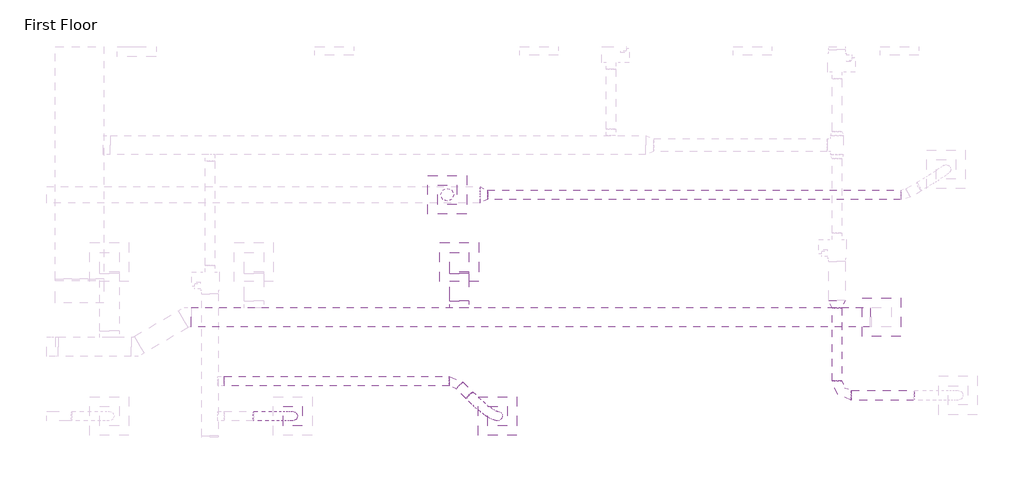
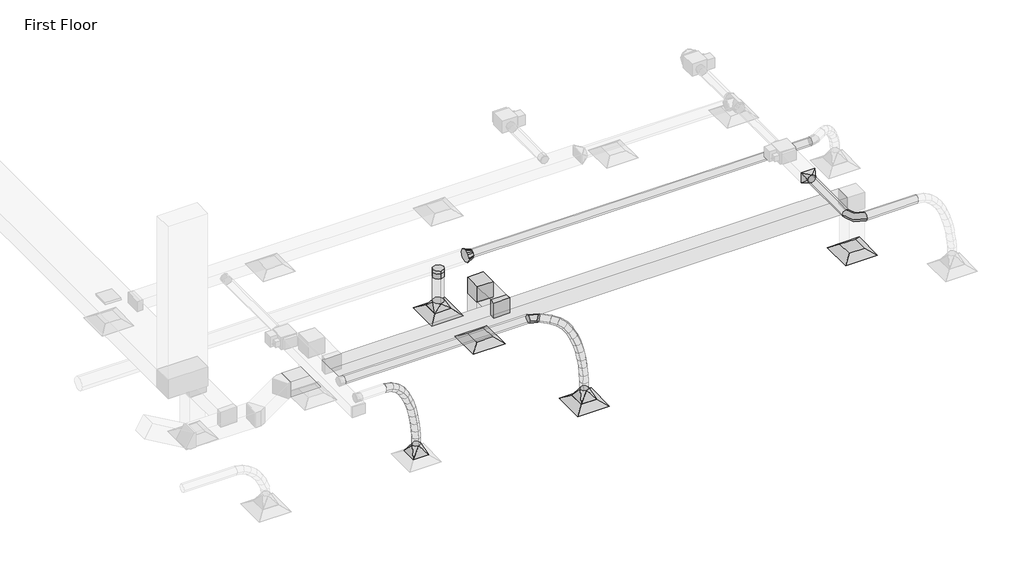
# One storey, part 47 of 61: 11 duct segments, 10 duct fittings, 4 air terminals.
"""IFC4 building model written with IfcOpenShell, lengths in millimetres."""

from ifc_helpers import new_model, si_unit, point, frame, frame_2d, origin, place, context, project, spatial, polyline, circle_curve, ellipse_curve, trimmed, segment, composite_curve, outline, extrude, transform, mapped, element, save
from ifc_brep_helpers import plane_surface, cylinder_surface, advanced_brep
from components import m_exhaust_grill_er_600_x_600_face_300_x_300_connection_ff221211, m_rectangular_elbow_mitered_standard_8eee5933, m_rectangular_takeoff_standard_b44bfa45, m_rectangular_to_round_transition_angle_45_degree_8f201c83, m_rectangular_to_round_transition_angle_45_degree_c3b12eae, m_rectangular_to_round_transition_angle_45_degree_60daae35, m_round_elbow_1_5_d_fa134dda, m_round_elbow_1_5_d_2e586196, m_round_takeoff_standard_2adb3d06, m_round_transition_angle_45_degree_7615eb52

model = new_model("IFC4")

# Units and contexts
model_context = context("Model", 3, world=origin())
ifc_project = project(units=[si_unit("LENGTHUNIT", "METRE", prefix="MILLI")], contexts=[model_context])

# Site, building, storey
site = spatial("IfcSite", under=ifc_project)
building = spatial("IfcBuilding", under=site)
storey = spatial("IfcBuildingStorey", under=building, Name="First Floor", Elevation=0.0)

# Air terminals
placement = place(None, origin())
m_exhaust_grill_er_600_x_600_face_300_x_300_connection_shape = m_exhaust_grill_er_600_x_600_face_300_x_300_connection_ff221211(model_context)
element("IfcAirTerminal", 1, ObjectType="M_Return Register : RR-600 x 600 Face 300 x 300 Connection", at=placement, inside=storey, context=model_context, shape_type="MappedRepresentation", body=[
    mapped(m_exhaust_grill_er_600_x_600_face_300_x_300_connection_shape, transform((-29108.1076362, 38358.5208691, 2680.0), x_axis=(1.0, 0.0, 0.0), y_axis=(0.0, 1.0, 0.0), z_axis=(0.0, 0.0, 1.0))),
])
element("IfcAirTerminal", 2, ObjectType="M_Return Register : RR-600 x 600 Face 300 x 300 Connection", at=placement, inside=storey, context=model_context, shape_type="MappedRepresentation", body=[
    mapped(m_exhaust_grill_er_600_x_600_face_300_x_300_connection_shape, transform((-22568.0356534, 37503.8775197, 2680.0), x_axis=(1.0, 0.0, 0.0), y_axis=(0.0, 1.0, 0.0), z_axis=(0.0, 0.0, 1.0))),
])
element("IfcAirTerminal", 3, ObjectType="M_Supply Diffuser : SD-600 x 600 Face 300 x 300 Connection", at=placement, inside=storey, context=model_context, shape_type="MappedRepresentation", body=[
    mapped(m_exhaust_grill_er_600_x_600_face_300_x_300_connection_shape, transform((-28515.163144, 35969.7483346, 2680.0), x_axis=(1.0, 0.0, 0.0), y_axis=(0.0, 1.0, 0.0), z_axis=(0.0, 0.0, 1.0))),
])
element("IfcAirTerminal", 4, ObjectType="M_Supply Diffuser : SD-600 x 600 Face 300 x 300 Connection", at=placement, inside=storey, context=model_context, shape_type="MappedRepresentation", body=[
    mapped(m_exhaust_grill_er_600_x_600_face_300_x_300_connection_shape, transform((-29294.9689953, 39401.9183838, 2680.0), x_axis=(1.0, 0.0, 0.0), y_axis=(0.0, 1.0, 0.0), z_axis=(0.0, 0.0, 1.0))),
])

# Duct fittings
m_rectangular_elbow_mitered_standard_shape = m_rectangular_elbow_mitered_standard_8eee5933(model_context)
element("IfcDuctFitting", 5, ObjectType="M_Rectangular Elbow - Mitered : Standard", at=placement, inside=storey, context=model_context, shape_type="MappedRepresentation", body=[
    mapped(m_rectangular_elbow_mitered_standard_shape, transform((-29108.1076362, 38358.5208691, 3750.0), x_axis=(0.0, 0.0, 1.0), y_axis=(0.0, -1.0, 0.0), z_axis=(1.0, 0.0, 0.0))),
])
m_rectangular_takeoff_standard_shape = m_rectangular_takeoff_standard_b44bfa45(model_context)
element("IfcDuctFitting", 6, ObjectType="M_Rectangular Takeoff : Standard", at=placement, inside=storey, context=model_context, shape_type="MappedRepresentation", body=[
    mapped(m_rectangular_takeoff_standard_shape, transform((-29108.1076362, 37653.8775197, 3750.0), x_axis=(0.0, 1.0, 0.0), y_axis=(1.0, 0.0, 0.0), z_axis=(0.0, 0.0, -1.0))),
])
m_rectangular_to_round_transition_angle_45_degree_shape = m_rectangular_to_round_transition_angle_45_degree_8f201c83(model_context)
element("IfcDuctFitting", 7, ObjectType="M_Rectangular to Round Transition - Angle : 45 Degree", at=placement, inside=storey, context=model_context, shape_type="MappedRepresentation", body=[
    mapped(m_rectangular_to_round_transition_angle_45_degree_shape, transform((-31688.8067764, 35969.7483346, 2781.6), x_axis=(0.0, 0.0, 1.0), y_axis=(1.0, 0.0, 0.0), z_axis=(0.0, 1.0, 0.0))),
])
element("IfcDuctFitting", 8, ObjectType="M_Rectangular to Round Transition - Angle : 45 Degree", at=placement, inside=storey, context=model_context, shape_type="MappedRepresentation", body=[
    mapped(m_rectangular_to_round_transition_angle_45_degree_shape, transform((-28515.163144, 35969.7483346, 2781.6), x_axis=(0.0, 0.0, 1.0), y_axis=(1.0, 0.0, 0.0), z_axis=(0.0, 1.0, 0.0))),
])
m_rectangular_to_round_transition_angle_45_degree_2_shape = m_rectangular_to_round_transition_angle_45_degree_c3b12eae(model_context)
element("IfcDuctFitting", 9, ObjectType="M_Rectangular to Round Transition - Angle : 45 Degree", at=placement, inside=storey, context=model_context, shape_type="MappedRepresentation", body=[
    mapped(m_rectangular_to_round_transition_angle_45_degree_2_shape, transform((-23256.5951693, 37766.1512227, 4279.0), x_axis=(0.0, -0.9999999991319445, -4.166666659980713e-05), y_axis=(1.0, 0.0, 0.0), z_axis=(0.0, -4.166666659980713e-05, 0.9999999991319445))),
])
m_rectangular_to_round_transition_angle_45_degree_3_shape = m_rectangular_to_round_transition_angle_45_degree_60daae35(model_context)
element("IfcDuctFitting", 10, ObjectType="M_Rectangular to Round Transition - Angle : 45 Degree", at=placement, inside=storey, context=model_context, shape_type="MappedRepresentation", body=[
    mapped(m_rectangular_to_round_transition_angle_45_degree_3_shape, transform((-29294.9689953, 39401.9183838, 2781.6), x_axis=(0.0, 0.0, 1.0), y_axis=(0.0, 1.0, 0.0), z_axis=(-1.0, 0.0, 0.0))),
])
m_round_elbow_1_5_d_shape = m_round_elbow_1_5_d_fa134dda(model_context)
element("IfcDuctFitting", 11, ObjectType="M_Round Elbow : 1.5 D", at=placement, inside=storey, context=model_context, shape_type="MappedRepresentation", body=[
    mapped(m_round_elbow_1_5_d_shape, transform((-29171.6317748, 36511.5685433, 4279.1), x_axis=(-0.7071067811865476, 0.7071067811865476, 0.0), y_axis=(-0.7071067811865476, -0.7071067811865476, 0.0), z_axis=(0.0, 0.0, 1.0))),
])
m_round_elbow_1_5_d_2_shape = m_round_elbow_1_5_d_2e586196(model_context)
element("IfcDuctFitting", 12, ObjectType="M_Round Elbow : 1.5 D", at=placement, inside=storey, context=model_context, shape_type="MappedRepresentation", body=[
    mapped(m_round_elbow_1_5_d_2_shape, transform((-23256.5951693, 36291.042011, 4279.0), x_axis=(0.0, -0.9999999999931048, 3.7135388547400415e-06), y_axis=(1.0, 0.0, 0.0), z_axis=(0.0, 3.7135388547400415e-06, 0.9999999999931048))),
])
m_round_takeoff_standard_shape = m_round_takeoff_standard_2adb3d06(model_context)
element("IfcDuctFitting", 13, ObjectType="M_Round Takeoff : Standard", at=placement, inside=storey, context=model_context, shape_type="MappedRepresentation", body=[
    mapped(m_round_takeoff_standard_shape, transform((-29294.9689953, 39401.9183838, 3494.1), x_axis=(0.0, 0.0, -1.0), y_axis=(0.0, -1.0, 0.0), z_axis=(-1.0, 0.0, 0.0))),
])
m_round_transition_angle_45_degree_shape = m_round_transition_angle_45_degree_7615eb52(model_context)
element("IfcDuctFitting", 14, ObjectType="M_Round Transition - Angle : 45 Degree", at=placement, inside=storey, context=model_context, shape_type="MappedRepresentation", body=[
    mapped(m_round_transition_angle_45_degree_shape, transform((-28786.3408383, 39401.9183838, 3619.1), x_axis=(1.0, 0.0, 0.0), y_axis=(0.0, 1.0, 0.0), z_axis=(0.0, 0.0, 1.0))),
])

# Duct segments
element("IfcDuctSegment", 15, ObjectType="Flex - Round", at=placement, inside=storey, context=model_context, shape_type="AdvancedBrep", body=[
    advanced_brep(
    [(-32292.2488656, 36044.7483346, 4279.1), (-32304.1707596, 35969.7483346, 4205.0536061), (-32292.2488656, 35894.7483346, 4279.1), (-32280.3269716, 35969.7483346, 4353.1463939), (-32169.3925272, 36044.7483346, 4259.319425), (-32193.4466156, 35969.7483346, 4187.226384), (-32169.3925272, 35894.7483346, 4259.319425), (-32145.3384388, 35969.7483346, 4331.412466), (-31688.8067764, 36044.7483346, 2962.6660172), (-31613.8261981, 35969.7483346, 2964.3727295), (-31688.8067764, 35894.7483346, 2962.6660172), (-31763.7873548, 35969.7483346, 2960.9593048), (-32063.3985917, 36044.7483346, 4203.5380822), (-32107.6658301, 35969.7483346, 4142.0825993), (-32063.3985917, 35894.7483346, 4203.5380822), (-32019.1313533, 35969.7483346, 4264.993565), (-31973.1794559, 36044.7483346, 4117.0965447), (-32030.8410618, 35969.7483346, 4068.4745888), (-31973.1794559, 35894.7483346, 4117.0965447), (-31915.51785, 35969.7483346, 4165.7185005), (-31897.6475165, 36044.7483346, 4005.3353856), (-31963.0456459, 35969.7483346, 3968.16081), (-31897.6475165, 35894.7483346, 4005.3353856), (-31832.2493872, 35969.7483346, 4042.5099612), (-31835.7151705, 36044.7483346, 3873.5951783), (-31905.4073756, 35969.7483346, 3845.5548025), (-31835.7151705, 35894.7483346, 3873.5951783), (-31766.0229654, 35969.7483346, 3901.635554), (-31786.2948146, 36044.7483346, 3727.2164958), (-31858.3889748, 35969.7483346, 3706.2904967), (-31786.2948146, 35894.7483346, 3727.2164958), (-31714.2006544, 35969.7483346, 3748.1424948), (-31748.2988458, 36044.7483346, 3571.5399113), (-31821.7633808, 35969.7483346, 3556.2285942), (-31748.2988458, 35894.7483346, 3571.5399113), (-31674.8343107, 35969.7483346, 3586.8512284), (-31720.6396607, 36044.7483346, 3411.905998), (-31794.8955993, 35969.7483346, 3401.1622357), (-31720.6396607, 35894.7483346, 3411.905998), (-31646.3837221, 35969.7483346, 3422.6497604), (-31702.2296562, 36044.7483346, 3253.6553291), (-31776.9364995, 35969.7483346, 3246.7875012), (-31702.2296562, 35894.7483346, 3253.6553291), (-31627.5228129, 35969.7483346, 3260.523157), (-31691.9812292, 36044.7483346, 3102.1284778), (-31766.9235935, 35969.7483346, 3098.7429165), (-31691.9812292, 35894.7483346, 3102.1284778), (-31617.0388649, 35969.7483346, 3105.514039)],
    [
        (0, 1, circle_curve(frame((-32292.2488656, 35969.7483346, 4279.1), z_axis=(-0.9872852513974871, 0.0, 0.15895858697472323), x_axis=(0.0, 1.0, 0.0)), 75.0)),
        (1, 2, circle_curve(frame((-32292.2488656, 35969.7483346, 4279.1), z_axis=(-0.9872852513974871, 0.0, 0.15895858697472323), x_axis=(0.0, 1.0, 0.0)), 75.0)),
        (2, 3, circle_curve(frame((-32292.2488656, 35969.7483346, 4279.1), z_axis=(-0.9872852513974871, 0.0, 0.15895858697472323), x_axis=(0.0, 1.0, 0.0)), 75.0)),
        (3, 0, circle_curve(frame((-32292.2488656, 35969.7483346, 4279.1), z_axis=(-0.9872852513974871, 0.0, 0.15895858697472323), x_axis=(0.0, 1.0, 0.0)), 75.0)),
        (0, 4),
        (4, 5, ellipse_curve(frame((-32169.3925272, 35969.7483346, 4259.319425), z_axis=(-0.9485921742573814, 0.0, 0.31650100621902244), x_axis=(-0.31650100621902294, 0.0, -0.9485921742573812)), 76.0000377, 75.0)),
        (5, 1),
        (5, 6, ellipse_curve(frame((-32169.3925272, 35969.7483346, 4259.319425), z_axis=(-0.9485921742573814, 0.0, 0.31650100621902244), x_axis=(-0.31650100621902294, 0.0, -0.9485921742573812)), 76.0000377, 75.0)),
        (6, 2),
        (6, 7, ellipse_curve(frame((-32169.3925272, 35969.7483346, 4259.319425), z_axis=(-0.9485921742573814, 0.0, 0.31650100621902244), x_axis=(-0.31650100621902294, 0.0, -0.9485921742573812)), 76.0000377, 75.0)),
        (7, 3),
        (7, 4, ellipse_curve(frame((-32169.3925272, 35969.7483346, 4259.319425), z_axis=(-0.9485921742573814, 0.0, 0.31650100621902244), x_axis=(-0.31650100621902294, 0.0, -0.9485921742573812)), 76.0000377, 75.0)),
        (8, 9, circle_curve(frame((-31688.8067764, 35969.7483346, 2962.6660172), z_axis=(0.022756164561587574, 0.0, -0.9997410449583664), x_axis=(0.0, 1.0, 0.0)), 75.0)),
        (9, 10, circle_curve(frame((-31688.8067764, 35969.7483346, 2962.6660172), z_axis=(0.022756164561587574, 0.0, -0.9997410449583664), x_axis=(0.0, 1.0, 0.0)), 75.0)),
        (10, 11, circle_curve(frame((-31688.8067764, 35969.7483346, 2962.6660172), z_axis=(0.022756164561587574, 0.0, -0.9997410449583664), x_axis=(0.0, 1.0, 0.0)), 75.0)),
        (11, 8, circle_curve(frame((-31688.8067764, 35969.7483346, 2962.6660172), z_axis=(0.022756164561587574, 0.0, -0.9997410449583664), x_axis=(0.0, 1.0, 0.0)), 75.0)),
        (4, 12),
        (12, 13, ellipse_curve(frame((-32063.3985917, 35969.7483346, 4203.5380822), z_axis=(-0.8114135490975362, 0.0, 0.5844724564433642), x_axis=(-0.5844724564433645, 0.0, -0.811413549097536)), 75.738793, 75.0)),
        (13, 5),
        (13, 14, ellipse_curve(frame((-32063.3985917, 35969.7483346, 4203.5380822), z_axis=(-0.8114135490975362, 0.0, 0.5844724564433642), x_axis=(-0.5844724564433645, 0.0, -0.811413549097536)), 75.738793, 75.0)),
        (14, 6),
        (14, 15, ellipse_curve(frame((-32063.3985917, 35969.7483346, 4203.5380822), z_axis=(-0.8114135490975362, 0.0, 0.5844724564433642), x_axis=(-0.5844724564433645, 0.0, -0.811413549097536)), 75.738793, 75.0)),
        (15, 7),
        (15, 12, ellipse_curve(frame((-32063.3985917, 35969.7483346, 4203.5380822), z_axis=(-0.8114135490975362, 0.0, 0.5844724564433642), x_axis=(-0.5844724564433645, 0.0, -0.811413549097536)), 75.738793, 75.0)),
        (12, 16),
        (16, 17, ellipse_curve(frame((-31973.1794559, 35969.7483346, 4117.0965447), z_axis=(-0.6446383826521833, 0.0, 0.764487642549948), x_axis=(-0.7644876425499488, 0.0, -0.6446383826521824)), 75.4251641, 75.0)),
        (17, 13),
        (17, 18, ellipse_curve(frame((-31973.1794559, 35969.7483346, 4117.0965447), z_axis=(-0.6446383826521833, 0.0, 0.764487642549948), x_axis=(-0.7644876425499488, 0.0, -0.6446383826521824)), 75.4251641, 75.0)),
        (18, 14),
        (18, 19, ellipse_curve(frame((-31973.1794559, 35969.7483346, 4117.0965447), z_axis=(-0.6446383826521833, 0.0, 0.764487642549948), x_axis=(-0.7644876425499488, 0.0, -0.6446383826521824)), 75.4251641, 75.0)),
        (19, 15),
        (19, 16, ellipse_curve(frame((-31973.1794559, 35969.7483346, 4117.0965447), z_axis=(-0.6446383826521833, 0.0, 0.764487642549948), x_axis=(-0.7644876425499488, 0.0, -0.6446383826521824)), 75.4251641, 75.0)),
        (16, 20),
        (20, 21, ellipse_curve(frame((-31897.6475165, 35969.7483346, 4005.3353856), z_axis=(-0.4941756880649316, 0.0, 0.8693620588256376), x_axis=(-0.8693620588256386, 0.0, -0.4941756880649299)), 75.2254239, 75.0)),
        (21, 17),
        (21, 22, ellipse_curve(frame((-31897.6475165, 35969.7483346, 4005.3353856), z_axis=(-0.4941756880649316, 0.0, 0.8693620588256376), x_axis=(-0.8693620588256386, 0.0, -0.4941756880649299)), 75.2254239, 75.0)),
        (22, 18),
        (22, 23, ellipse_curve(frame((-31897.6475165, 35969.7483346, 4005.3353856), z_axis=(-0.4941756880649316, 0.0, 0.8693620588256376), x_axis=(-0.8693620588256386, 0.0, -0.4941756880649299)), 75.2254239, 75.0)),
        (23, 19),
        (23, 20, ellipse_curve(frame((-31897.6475165, 35969.7483346, 4005.3353856), z_axis=(-0.4941756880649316, 0.0, 0.8693620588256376), x_axis=(-0.8693620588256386, 0.0, -0.4941756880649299)), 75.2254239, 75.0)),
        (20, 24),
        (24, 25, ellipse_curve(frame((-31835.7151705, 35969.7483346, 3873.5951783), z_axis=(-0.3732661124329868, 0.0, 0.9277243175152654), x_axis=(-0.927724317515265, 0.0, -0.37326611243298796)), 75.1216754, 75.0)),
        (25, 21),
        (25, 26, ellipse_curve(frame((-31835.7151705, 35969.7483346, 3873.5951783), z_axis=(-0.3732661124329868, 0.0, 0.9277243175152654), x_axis=(-0.927724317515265, 0.0, -0.37326611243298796)), 75.1216754, 75.0)),
        (26, 22),
        (26, 27, ellipse_curve(frame((-31835.7151705, 35969.7483346, 3873.5951783), z_axis=(-0.3732661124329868, 0.0, 0.9277243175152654), x_axis=(-0.927724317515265, 0.0, -0.37326611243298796)), 75.1216754, 75.0)),
        (27, 23),
        (27, 24, ellipse_curve(frame((-31835.7151705, 35969.7483346, 3873.5951783), z_axis=(-0.3732661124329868, 0.0, 0.9277243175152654), x_axis=(-0.927724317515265, 0.0, -0.37326611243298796)), 75.1216754, 75.0)),
        (24, 28),
        (28, 29, ellipse_curve(frame((-31786.2948146, 35969.7483346, 3727.2164958), z_axis=(-0.27875412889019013, 0.0, 0.9603625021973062), x_axis=(-0.960362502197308, 0.0, -0.2787541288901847)), 75.0697367, 75.0)),
        (29, 25),
        (29, 30, ellipse_curve(frame((-31786.2948146, 35969.7483346, 3727.2164958), z_axis=(-0.27875412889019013, 0.0, 0.9603625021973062), x_axis=(-0.960362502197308, 0.0, -0.2787541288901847)), 75.0697367, 75.0)),
        (30, 26),
        (30, 31, ellipse_curve(frame((-31786.2948146, 35969.7483346, 3727.2164958), z_axis=(-0.27875412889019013, 0.0, 0.9603625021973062), x_axis=(-0.960362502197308, 0.0, -0.2787541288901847)), 75.0697367, 75.0)),
        (31, 27),
        (31, 28, ellipse_curve(frame((-31786.2948146, 35969.7483346, 3727.2164958), z_axis=(-0.27875412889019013, 0.0, 0.9603625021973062), x_axis=(-0.960362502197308, 0.0, -0.2787541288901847)), 75.0697367, 75.0)),
        (28, 32),
        (32, 33, ellipse_curve(frame((-31748.2988458, 35969.7483346, 3571.5399113), z_axis=(-0.20403350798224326, 0.0, 0.9789639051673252), x_axis=(-0.9789639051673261, 0.0, -0.20403350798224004)), 75.0431499, 75.0)),
        (33, 29),
        (33, 34, ellipse_curve(frame((-31748.2988458, 35969.7483346, 3571.5399113), z_axis=(-0.20403350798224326, 0.0, 0.9789639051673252), x_axis=(-0.9789639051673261, 0.0, -0.20403350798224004)), 75.0431499, 75.0)),
        (34, 30),
        (34, 35, ellipse_curve(frame((-31748.2988458, 35969.7483346, 3571.5399113), z_axis=(-0.20403350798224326, 0.0, 0.9789639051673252), x_axis=(-0.9789639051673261, 0.0, -0.20403350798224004)), 75.0431499, 75.0)),
        (35, 31),
        (35, 32, ellipse_curve(frame((-31748.2988458, 35969.7483346, 3571.5399113), z_axis=(-0.20403350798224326, 0.0, 0.9789639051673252), x_axis=(-0.9789639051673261, 0.0, -0.20403350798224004)), 75.0431499, 75.0)),
        (32, 36),
        (36, 37, ellipse_curve(frame((-31720.6396607, 35969.7483346, 3411.905998), z_axis=(-0.14319451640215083, 0.0, 0.9896945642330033), x_axis=(-0.9896945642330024, 0.0, -0.1431945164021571)), 75.0291467, 75.0)),
        (37, 33),
        (37, 38, ellipse_curve(frame((-31720.6396607, 35969.7483346, 3411.905998), z_axis=(-0.14319451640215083, 0.0, 0.9896945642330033), x_axis=(-0.9896945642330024, 0.0, -0.1431945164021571)), 75.0291467, 75.0)),
        (38, 34),
        (38, 39, ellipse_curve(frame((-31720.6396607, 35969.7483346, 3411.905998), z_axis=(-0.14319451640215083, 0.0, 0.9896945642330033), x_axis=(-0.9896945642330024, 0.0, -0.1431945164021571)), 75.0291467, 75.0)),
        (39, 35),
        (39, 36, ellipse_curve(frame((-31720.6396607, 35969.7483346, 3411.905998), z_axis=(-0.14319451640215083, 0.0, 0.9896945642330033), x_axis=(-0.9896945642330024, 0.0, -0.1431945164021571)), 75.0291467, 75.0)),
        (36, 40),
        (40, 41, ellipse_curve(frame((-31702.2296562, 35969.7483346, 3253.6553291), z_axis=(-0.09154435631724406, 0.0, 0.9958009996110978), x_axis=(-0.9958009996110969, 0.0, -0.09154435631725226)), 75.0218601, 75.0)),
        (41, 37),
        (41, 42, ellipse_curve(frame((-31702.2296562, 35969.7483346, 3253.6553291), z_axis=(-0.09154435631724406, 0.0, 0.9958009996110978), x_axis=(-0.9958009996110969, 0.0, -0.09154435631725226)), 75.0218601, 75.0)),
        (42, 38),
        (42, 43, ellipse_curve(frame((-31702.2296562, 35969.7483346, 3253.6553291), z_axis=(-0.09154435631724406, 0.0, 0.9958009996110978), x_axis=(-0.9958009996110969, 0.0, -0.09154435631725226)), 75.0218601, 75.0)),
        (43, 39),
        (43, 40, ellipse_curve(frame((-31702.2296562, 35969.7483346, 3253.6553291), z_axis=(-0.09154435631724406, 0.0, 0.9958009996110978), x_axis=(-0.9958009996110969, 0.0, -0.09154435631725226)), 75.0218601, 75.0)),
        (40, 44),
        (44, 45, ellipse_curve(frame((-31691.9812292, 35969.7483346, 3102.1284778), z_axis=(-0.0451295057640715, 0.0, 0.9989811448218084), x_axis=(-0.9989811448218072, 0.0, -0.04512950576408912)), 75.0187976, 75.0)),
        (45, 41),
        (45, 46, ellipse_curve(frame((-31691.9812292, 35969.7483346, 3102.1284778), z_axis=(-0.0451295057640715, 0.0, 0.9989811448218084), x_axis=(-0.9989811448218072, 0.0, -0.04512950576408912)), 75.0187976, 75.0)),
        (46, 42),
        (46, 47, ellipse_curve(frame((-31691.9812292, 35969.7483346, 3102.1284778), z_axis=(-0.0451295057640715, 0.0, 0.9989811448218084), x_axis=(-0.9989811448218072, 0.0, -0.04512950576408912)), 75.0187976, 75.0)),
        (47, 43),
        (47, 44, ellipse_curve(frame((-31691.9812292, 35969.7483346, 3102.1284778), z_axis=(-0.0451295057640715, 0.0, 0.9989811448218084), x_axis=(-0.9989811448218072, 0.0, -0.04512950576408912)), 75.0187976, 75.0)),
        (44, 8),
        (11, 45),
        (10, 46),
        (9, 47),
    ],
    [
        plane_surface(frame((-32292.2488656, 36044.7483346, 4279.1), z_axis=(-0.9872852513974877, 0.0, 0.15895858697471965), x_axis=(0.15895858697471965, 0.0, 0.9872852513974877))),
        cylinder_surface(frame((-32292.2488656, 35969.7483346, 4279.1), z_axis=(-0.9872852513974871, 0.0, 0.15895858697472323), x_axis=(0.0, 1.0, 0.0)), 75.0),
        plane_surface(frame((-31688.8067764, 36044.7483346, 2962.6660172), z_axis=(0.022756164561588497, 0.0, -0.9997410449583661), x_axis=(0.9997410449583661, 0.0, 0.022756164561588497))),
        cylinder_surface(frame((-32169.3925272, 35969.7483346, 4259.319425), z_axis=(-0.8849352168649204, 0.0, 0.4657141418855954), x_axis=(0.0, 1.0, 0.0)), 75.0),
        cylinder_surface(frame((-32063.3985917, 35969.7483346, 4203.5380822), z_axis=(-0.7220620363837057, 0.0, 0.6918283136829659), x_axis=(0.0, 1.0, 0.0)), 75.0),
        cylinder_surface(frame((-31973.1794559, 35969.7483346, 4117.0965447), z_axis=(-0.559947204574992, 0.0, 0.8285282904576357), x_axis=(0.0, 1.0, 0.0)), 75.0),
        cylinder_surface(frame((-31897.6475165, 35969.7483346, 4005.3353856), z_axis=(-0.4254424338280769, 0.0, 0.9049854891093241), x_axis=(0.0, 1.0, 0.0)), 75.0),
        cylinder_surface(frame((-31835.7151705, 35969.7483346, 3873.5951783), z_axis=(-0.3198806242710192, 0.0, 0.9474578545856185), x_axis=(0.0, 1.0, 0.0)), 75.0),
        cylinder_surface(frame((-31786.2948146, 35969.7483346, 3727.2164958), z_axis=(-0.23710973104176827, 0.0, 0.9714828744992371), x_axis=(0.0, 1.0, 0.0)), 75.0),
        cylinder_surface(frame((-31748.2988458, 35969.7483346, 3571.5399113), z_axis=(-0.17072264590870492, 0.0, 0.9853191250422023), x_axis=(0.0, 1.0, 0.0)), 75.0),
        cylinder_surface(frame((-31720.6396607, 35969.7483346, 3411.905998), z_axis=(-0.11555513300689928, 0.0, 0.993301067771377), x_axis=(0.0, 1.0, 0.0)), 75.0),
        cylinder_surface(frame((-31702.2296562, 35969.7483346, 3253.6553291), z_axis=(-0.06748023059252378, 0.0, 0.9977206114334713), x_axis=(0.0, 1.0, 0.0)), 75.0),
        cylinder_surface(frame((-31691.9812292, 35969.7483346, 3102.1284778), z_axis=(-0.02275616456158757, 0.0, 0.9997410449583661), x_axis=(0.0, 1.0, 0.0)), 75.0),
    ],
    [
        (0, [[1, 2, 3, 4]]),
        (1, [[-1, 5, 6, 7]]),
        (1, [[-2, -7, 8, 9]]),
        (1, [[-3, -9, 10, 11]]),
        (1, [[-4, -11, 12, -5]]),
        (2, [[13, 14, 15, 16]]),
        (3, [[-6, 17, 18, 19]]),
        (3, [[-8, -19, 20, 21]]),
        (3, [[-10, -21, 22, 23]]),
        (3, [[-12, -23, 24, -17]]),
        (4, [[-18, 25, 26, 27]]),
        (4, [[-20, -27, 28, 29]]),
        (4, [[-22, -29, 30, 31]]),
        (4, [[-24, -31, 32, -25]]),
        (5, [[-26, 33, 34, 35]]),
        (5, [[-28, -35, 36, 37]]),
        (5, [[-30, -37, 38, 39]]),
        (5, [[-32, -39, 40, -33]]),
        (6, [[-34, 41, 42, 43]]),
        (6, [[-36, -43, 44, 45]]),
        (6, [[-38, -45, 46, 47]]),
        (6, [[-40, -47, 48, -41]]),
        (7, [[-42, 49, 50, 51]]),
        (7, [[-44, -51, 52, 53]]),
        (7, [[-46, -53, 54, 55]]),
        (7, [[-48, -55, 56, -49]]),
        (8, [[-50, 57, 58, 59]]),
        (8, [[-52, -59, 60, 61]]),
        (8, [[-54, -61, 62, 63]]),
        (8, [[-56, -63, 64, -57]]),
        (9, [[-58, 65, 66, 67]]),
        (9, [[-60, -67, 68, 69]]),
        (9, [[-62, -69, 70, 71]]),
        (9, [[-64, -71, 72, -65]]),
        (10, [[-66, 73, 74, 75]]),
        (10, [[-68, -75, 76, 77]]),
        (10, [[-70, -77, 78, 79]]),
        (10, [[-72, -79, 80, -73]]),
        (11, [[-74, 81, 82, 83]]),
        (11, [[-76, -83, 84, 85]]),
        (11, [[-78, -85, 86, 87]]),
        (11, [[-80, -87, 88, -81]]),
        (12, [[-82, 89, -16, 90]]),
        (12, [[-84, -90, -15, 91]]),
        (12, [[-86, -91, -14, 92]]),
        (12, [[-88, -92, -13, -89]]),
    ],
),
])
element("IfcDuctSegment", 16, ObjectType="Flex - Round", at=placement, inside=storey, context=model_context, shape_type="AdvancedBrep", body=[
    advanced_brep(
    [(-28898.9172726, 36344.9068029, 4279.1), (-28959.9867045, 36299.6469913, 4205.1265321), (-29003.2932124, 36237.1772192, 4279.1), (-28942.2237805, 36282.4370308, 4353.0734679), (-28813.9922862, 36262.6255486, 4259.3322827), (-28883.4482216, 36225.4911669, 4187.3109144), (-28916.6646282, 36153.2454005, 4258.9357416), (-28847.2086929, 36190.3797821, 4330.9571099), (-28466.4959427, 36026.8062222, 2963.6152167), (-28458.114832, 35921.0718967, 2963.7122018), (-28563.8303453, 35912.690447, 2961.7168177), (-28572.2114559, 36018.4247724, 2961.6198326), (-28740.6675703, 36196.4851353, 4204.1243143), (-28824.4525426, 36172.2758419, 4142.8916277), (-28840.5363164, 36084.5760856, 4201.6168774), (-28756.7513441, 36108.7853789, 4262.8495641), (-28677.233403, 36143.8458751, 4118.1659162), (-28770.5889908, 36127.5785181, 4069.9021833), (-28775.4039092, 36030.5275835, 4113.3572278), (-28682.0483214, 36046.7949405, 4161.6209608), (-28623.1993399, 36103.2327389, 4006.5165657), (-28722.0304381, 36091.0808904, 3969.5667549), (-28720.5437615, 35989.2935446, 4000.0009574), (-28621.7126632, 36001.4453931, 4036.9507682), (-28578.1487226, 36073.2003178, 3874.5619656), (-28679.998044, 36063.0605295, 3846.4526204), (-28675.1584421, 35959.0379987, 3867.0660051), (-28573.3091207, 35969.1777871, 3895.1753502), (-28541.5959043, 36052.2199631, 3727.7999245), (-28645.1414702, 36043.0537744, 3706.5011157), (-28638.5195082, 35938.0082159, 3719.958204), (-28534.9739424, 35947.1744046, 3741.2570128), (-28512.9960433, 36038.7041249, 3571.7228135), (-28617.5281753, 36030.0041717, 3555.807961), (-28609.9577124, 35924.5103668, 3564.0888249), (-28505.4255803, 35933.21032, 3580.0036774), (-28491.7733613, 36031.036805, 3411.7873451), (-28596.8961678, 36022.5502504, 3400.3238529), (-28588.834743, 35916.879071, 3404.904797), (-28483.7119364, 35925.3656256, 3416.3682892), (-28477.3386327, 36027.5893303, 3253.4031783), (-28582.8175024, 36019.1878149, 3245.8465659), (-28574.5257361, 35913.4616226, 3247.9001032), (-28469.0468665, 35921.863138, 3255.4567156), (-28469.0999335, 36026.7266651, 3101.9089038), (-28574.7806027, 36018.3462799, 3098.0630078), (-28566.4085264, 35912.6116785, 3098.6397945), (-28460.7278572, 35920.9920637, 3102.4856905)],
    [
        (0, 1, circle_curve(frame((-28951.1052425, 36291.042011, 4279.1), z_axis=(-0.7083671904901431, 0.6863155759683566, 0.16488436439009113), x_axis=(0.6958395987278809, 0.71819722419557, 0.0)), 75.0)),
        (1, 2, circle_curve(frame((-28951.1052425, 36291.042011, 4279.1), z_axis=(-0.7083671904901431, 0.6863155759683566, 0.16488436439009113), x_axis=(0.6958395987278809, 0.71819722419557, 0.0)), 75.0)),
        (2, 3, circle_curve(frame((-28951.1052425, 36291.042011, 4279.1), z_axis=(-0.7083671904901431, 0.6863155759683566, 0.16488436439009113), x_axis=(0.6958395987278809, 0.71819722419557, 0.0)), 75.0)),
        (3, 0, circle_curve(frame((-28951.1052425, 36291.042011, 4279.1), z_axis=(-0.7083671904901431, 0.6863155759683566, 0.16488436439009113), x_axis=(0.6958395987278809, 0.71819722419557, 0.0)), 75.0)),
        (0, 4),
        (4, 5, ellipse_curve(frame((-28865.3284572, 36207.9354745, 4259.1340122), z_axis=(-0.6885126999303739, 0.6450878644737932, 0.3313788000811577), x_axis=(-0.17508220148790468, 0.2955650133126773, -0.9391419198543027)), 76.1349561, 75.0)),
        (5, 1),
        (5, 6, ellipse_curve(frame((-28865.3284572, 36207.9354745, 4259.1340122), z_axis=(-0.6885126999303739, 0.6450878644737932, 0.3313788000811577), x_axis=(-0.17508220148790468, 0.2955650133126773, -0.9391419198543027)), 76.1349561, 75.0)),
        (6, 2),
        (6, 7, ellipse_curve(frame((-28865.3284572, 36207.9354745, 4259.1340122), z_axis=(-0.6885126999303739, 0.6450878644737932, 0.3313788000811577), x_axis=(-0.17508220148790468, 0.2955650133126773, -0.9391419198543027)), 76.1349561, 75.0)),
        (7, 3),
        (7, 4, ellipse_curve(frame((-28865.3284572, 36207.9354745, 4259.1340122), z_axis=(-0.6885126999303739, 0.6450878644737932, 0.3313788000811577), x_axis=(-0.17508220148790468, 0.2955650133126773, -0.9391419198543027)), 76.1349561, 75.0)),
        (8, 9, circle_curve(frame((-28515.163144, 35969.7483346, 2962.6660172), z_axis=(0.018826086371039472, 0.0005751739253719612, -0.9998226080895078), x_axis=(0.6488960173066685, 0.760771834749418, 0.012655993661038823)), 75.0)),
        (9, 10, circle_curve(frame((-28515.163144, 35969.7483346, 2962.6660172), z_axis=(0.018826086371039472, 0.0005751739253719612, -0.9998226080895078), x_axis=(0.6488960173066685, 0.760771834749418, 0.012655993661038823)), 75.0)),
        (10, 11, circle_curve(frame((-28515.163144, 35969.7483346, 2962.6660172), z_axis=(0.018826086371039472, 0.0005751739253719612, -0.9998226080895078), x_axis=(0.6488960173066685, 0.760771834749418, 0.012655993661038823)), 75.0)),
        (11, 8, circle_curve(frame((-28515.163144, 35969.7483346, 2962.6660172), z_axis=(0.018826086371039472, 0.0005751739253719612, -0.9998226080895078), x_axis=(0.6488960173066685, 0.760771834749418, 0.012655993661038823)), 75.0)),
        (4, 12),
        (12, 13, ellipse_curve(frame((-28790.6019433, 36140.5306104, 4202.8705959), z_axis=(-0.5970114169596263, 0.5190738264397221, 0.6116696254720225), x_axis=(-0.3886045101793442, 0.47991377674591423, -0.7865553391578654)), 75.8420839, 75.0)),
        (13, 5),
        (13, 14, ellipse_curve(frame((-28790.6019433, 36140.5306104, 4202.8705959), z_axis=(-0.5970114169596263, 0.5190738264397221, 0.6116696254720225), x_axis=(-0.3886045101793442, 0.47991377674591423, -0.7865553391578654)), 75.8420839, 75.0)),
        (14, 6),
        (14, 15, ellipse_curve(frame((-28790.6019433, 36140.5306104, 4202.8705959), z_axis=(-0.5970114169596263, 0.5190738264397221, 0.6116696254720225), x_axis=(-0.3886045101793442, 0.47991377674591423, -0.7865553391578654)), 75.8420839, 75.0)),
        (15, 7),
        (15, 12, ellipse_curve(frame((-28790.6019433, 36140.5306104, 4202.8705959), z_axis=(-0.5970114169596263, 0.5190738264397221, 0.6116696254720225), x_axis=(-0.3886045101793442, 0.47991377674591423, -0.7865553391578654)), 75.8420839, 75.0)),
        (12, 16),
        (16, 17, ellipse_curve(frame((-28726.3186561, 36087.1867293, 4115.761572), z_axis=(-0.4762469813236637, 0.3789132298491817, 0.7934819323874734), x_axis=(-0.5356193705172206, 0.5906459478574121, -0.6035306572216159)), 75.464193, 75.0)),
        (17, 13),
        (17, 18, ellipse_curve(frame((-28726.3186561, 36087.1867293, 4115.761572), z_axis=(-0.4762469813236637, 0.3789132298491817, 0.7934819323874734), x_axis=(-0.5356193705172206, 0.5906459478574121, -0.6035306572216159)), 75.464193, 75.0)),
        (18, 14),
        (18, 19, ellipse_curve(frame((-28726.3186561, 36087.1867293, 4115.761572), z_axis=(-0.4762469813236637, 0.3789132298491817, 0.7934819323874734), x_axis=(-0.5356193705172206, 0.5906459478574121, -0.6035306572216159)), 75.464193, 75.0)),
        (19, 15),
        (19, 16, ellipse_curve(frame((-28726.3186561, 36087.1867293, 4115.761572), z_axis=(-0.4762469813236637, 0.3789132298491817, 0.7934819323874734), x_axis=(-0.5356193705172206, 0.5906459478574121, -0.6035306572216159)), 75.464193, 75.0)),
        (16, 20),
        (20, 21, ellipse_curve(frame((-28671.8715507, 36046.2631418, 4003.2587616), z_axis=(-0.36605560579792, 0.2616723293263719, 0.8930458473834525), x_axis=(-0.6255686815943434, 0.6412822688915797, -0.4443206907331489)), 75.2318303, 75.0)),
        (21, 17),
        (21, 22, ellipse_curve(frame((-28671.8715507, 36046.2631418, 4003.2587616), z_axis=(-0.36605560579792, 0.2616723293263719, 0.8930458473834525), x_axis=(-0.6255686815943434, 0.6412822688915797, -0.4443206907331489)), 75.2318303, 75.0)),
        (22, 18),
        (22, 23, ellipse_curve(frame((-28671.8715507, 36046.2631418, 4003.2587616), z_axis=(-0.36605560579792, 0.2616723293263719, 0.8930458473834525), x_axis=(-0.6255686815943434, 0.6412822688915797, -0.4443206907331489)), 75.2318303, 75.0)),
        (23, 19),
        (23, 20, ellipse_curve(frame((-28671.8715507, 36046.2631418, 4003.2587616), z_axis=(-0.36605560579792, 0.2616723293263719, 0.8930458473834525), x_axis=(-0.6255686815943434, 0.6412822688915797, -0.4443206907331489)), 75.2318303, 75.0)),
        (20, 24),
        (24, 25, ellipse_curve(frame((-28626.6535823, 36016.1191583, 3870.8139853), z_axis=(-0.278055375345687, 0.17425350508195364, 0.9446273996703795), x_axis=(-0.6840641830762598, 0.6544599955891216, -0.3220843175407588)), 75.1174252, 75.0)),
        (25, 21),
        (25, 26, ellipse_curve(frame((-28626.6535823, 36016.1191583, 3870.8139853), z_axis=(-0.278055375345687, 0.17425350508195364, 0.9446273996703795), x_axis=(-0.6840641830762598, 0.6544599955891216, -0.3220843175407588)), 75.1174252, 75.0)),
        (26, 22),
        (26, 27, ellipse_curve(frame((-28626.6535823, 36016.1191583, 3870.8139853), z_axis=(-0.278055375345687, 0.17425350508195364, 0.9446273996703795), x_axis=(-0.6840641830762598, 0.6544599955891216, -0.3220843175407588)), 75.1174252, 75.0)),
        (27, 23),
        (27, 24, ellipse_curve(frame((-28626.6535823, 36016.1191583, 3870.8139853), z_axis=(-0.278055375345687, 0.17425350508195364, 0.9446273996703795), x_axis=(-0.6840641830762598, 0.6544599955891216, -0.3220843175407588)), 75.1174252, 75.0)),
        (24, 28),
        (28, 29, ellipse_curve(frame((-28590.0577063, 35995.1140895, 3723.8790642), z_axis=(-0.20966396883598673, 0.11122966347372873, 0.9714262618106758), x_axis=(-0.7309093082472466, 0.6420935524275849, -0.23127354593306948)), 75.0628252, 75.0)),
        (29, 25),
        (29, 30, ellipse_curve(frame((-28590.0577063, 35995.1140895, 3723.8790642), z_axis=(-0.20966396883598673, 0.11122966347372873, 0.9714262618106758), x_axis=(-0.7309093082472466, 0.6420935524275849, -0.23127354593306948)), 75.0628252, 75.0)),
        (30, 26),
        (30, 31, ellipse_curve(frame((-28590.0577063, 35995.1140895, 3723.8790642), z_axis=(-0.20966396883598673, 0.11122966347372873, 0.9714262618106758), x_axis=(-0.7309093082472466, 0.6420935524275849, -0.23127354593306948)), 75.0628252, 75.0)),
        (31, 27),
        (31, 28, ellipse_curve(frame((-28590.0577063, 35995.1140895, 3723.8790642), z_axis=(-0.20966396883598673, 0.11122966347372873, 0.9714262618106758), x_axis=(-0.7309093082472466, 0.6420935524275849, -0.23127354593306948)), 75.0628252, 75.0)),
        (28, 32),
        (32, 33, ellipse_curve(frame((-28561.4768778, 35981.6072458, 3567.9058192), z_axis=(-0.1555666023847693, 0.06620242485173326, 0.9856045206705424), x_axis=(-0.7793738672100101, 0.6048125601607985, -0.16364028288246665)), 75.0358776, 75.0)),
        (33, 29),
        (33, 34, ellipse_curve(frame((-28561.4768778, 35981.6072458, 3567.9058192), z_axis=(-0.1555666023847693, 0.06620242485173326, 0.9856045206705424), x_axis=(-0.7793738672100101, 0.6048125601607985, -0.16364028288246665)), 75.0358776, 75.0)),
        (34, 30),
        (34, 35, ellipse_curve(frame((-28561.4768778, 35981.6072458, 3567.9058192), z_axis=(-0.1555666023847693, 0.06620242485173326, 0.9856045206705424), x_axis=(-0.7793738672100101, 0.6048125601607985, -0.16364028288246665)), 75.0358776, 75.0)),
        (35, 31),
        (35, 32, ellipse_curve(frame((-28561.4768778, 35981.6072458, 3567.9058192), z_axis=(-0.1555666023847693, 0.06620242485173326, 0.9856045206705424), x_axis=(-0.7793738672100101, 0.6048125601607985, -0.16364028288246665)), 75.0358776, 75.0)),
        (32, 36),
        (36, 37, ellipse_curve(frame((-28540.3040521, 35973.957938, 3408.3460711), z_axis=(-0.11109957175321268, 0.03458092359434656, 0.9932074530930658), x_axis=(-0.8389924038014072, 0.5324106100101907, -0.11238633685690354)), 75.0220218, 75.0)),
        (37, 33),
        (37, 38, ellipse_curve(frame((-28540.3040521, 35973.957938, 3408.3460711), z_axis=(-0.11109957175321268, 0.03458092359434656, 0.9932074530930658), x_axis=(-0.8389924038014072, 0.5324106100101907, -0.11238633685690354)), 75.0220218, 75.0)),
        (38, 34),
        (38, 39, ellipse_curve(frame((-28540.3040521, 35973.957938, 3408.3460711), z_axis=(-0.11109957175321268, 0.03458092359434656, 0.9932074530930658), x_axis=(-0.8389924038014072, 0.5324106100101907, -0.11238633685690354)), 75.0220218, 75.0)),
        (39, 35),
        (39, 36, ellipse_curve(frame((-28540.3040521, 35973.957938, 3408.3460711), z_axis=(-0.11109957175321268, 0.03458092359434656, 0.9932074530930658), x_axis=(-0.8389924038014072, 0.5324106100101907, -0.11238633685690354)), 75.0220218, 75.0)),
        (36, 40),
        (40, 41, ellipse_curve(frame((-28525.9321844, 35970.5254765, 3250.6516407), z_axis=(-0.07253531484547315, 0.01368146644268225, 0.9972720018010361), x_axis=(-0.9133784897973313, 0.4007065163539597, -0.07193067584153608)), 75.0149249, 75.0)),
        (41, 37),
        (41, 42, ellipse_curve(frame((-28525.9321844, 35970.5254765, 3250.6516407), z_axis=(-0.07253531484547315, 0.01368146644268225, 0.9972720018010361), x_axis=(-0.9133784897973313, 0.4007065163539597, -0.07193067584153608)), 75.0149249, 75.0)),
        (42, 38),
        (42, 43, ellipse_curve(frame((-28525.9321844, 35970.5254765, 3250.6516407), z_axis=(-0.07253531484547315, 0.01368146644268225, 0.9972720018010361), x_axis=(-0.9133784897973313, 0.4007065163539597, -0.07193067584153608)), 75.0149249, 75.0)),
        (43, 39),
        (43, 40, ellipse_curve(frame((-28525.9321844, 35970.5254765, 3250.6516407), z_axis=(-0.07253531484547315, 0.01368146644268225, 0.9972720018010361), x_axis=(-0.9133784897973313, 0.4007065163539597, -0.07193067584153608)), 75.0149249, 75.0)),
        (40, 44),
        (44, 45, ellipse_curve(frame((-28517.75423, 35969.6691718, 3100.2743492), z_axis=(-0.036569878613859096, 0.002555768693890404, 0.9993278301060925), x_axis=(-0.9841258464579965, 0.17368692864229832, -0.036457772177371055)), 75.0121853, 75.0)),
        (45, 41),
        (45, 46, ellipse_curve(frame((-28517.75423, 35969.6691718, 3100.2743492), z_axis=(-0.036569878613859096, 0.002555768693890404, 0.9993278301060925), x_axis=(-0.9841258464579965, 0.17368692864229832, -0.036457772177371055)), 75.0121853, 75.0)),
        (46, 42),
        (46, 47, ellipse_curve(frame((-28517.75423, 35969.6691718, 3100.2743492), z_axis=(-0.036569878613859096, 0.002555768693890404, 0.9993278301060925), x_axis=(-0.9841258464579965, 0.17368692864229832, -0.036457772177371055)), 75.0121853, 75.0)),
        (47, 43),
        (47, 44, ellipse_curve(frame((-28517.75423, 35969.6691718, 3100.2743492), z_axis=(-0.036569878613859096, 0.002555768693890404, 0.9993278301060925), x_axis=(-0.9841258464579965, 0.17368692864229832, -0.036457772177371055)), 75.0121853, 75.0)),
        (44, 8),
        (11, 45),
        (10, 46),
        (9, 47),
    ],
    [
        plane_surface(frame((-28951.1052425, 36308.5619237, 4206.1750203), z_axis=(-0.7083671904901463, 0.6863155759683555, 0.1648843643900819), x_axis=(0.7058441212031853, 0.6887688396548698, 0.16547375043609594))),
        cylinder_surface(frame((-28951.1052425, 36291.042011, 4279.1), z_axis=(-0.7083671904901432, 0.6863155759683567, 0.16488436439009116), x_axis=(0.6958395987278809, 0.71819722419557, 0.0)), 75.0),
        plane_surface(frame((-28515.163144, 36044.7483222, 2962.7091629), z_axis=(0.018826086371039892, 0.0005751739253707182, -0.999822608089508), x_axis=(0.9998227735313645, -1.0830193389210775e-05, 0.01882608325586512))),
        cylinder_surface(frame((-28865.3284572, 36207.9354745, 4259.1340122), z_axis=(-0.6481306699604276, 0.5846272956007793, 0.4879934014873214), x_axis=(0.6740907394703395, 0.7385743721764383, 0.010467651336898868)), 75.0),
        cylinder_surface(frame((-28790.6019433, 36140.5306104, 4202.8705959), z_axis=(-0.5326347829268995, 0.44199367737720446, 0.7217629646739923), x_axis=(0.6589714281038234, 0.7517199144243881, 0.025958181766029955)), 75.0),
        cylinder_surface(frame((-28726.3186561, 36087.1867293, 4115.761572), z_axis=(-0.4140002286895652, 0.3111712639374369, 0.8554392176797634), x_axis=(0.6509712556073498, 0.7580850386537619, 0.03928738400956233)), 75.0),
        cylinder_surface(frame((-28671.8715507, 36046.2631418, 4003.2587616), z_axis=(-0.315854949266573, 0.21056068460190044, 0.9251485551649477), x_axis=(0.6474304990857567, 0.7606161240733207, 0.04792557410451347)), 75.0),
        cylinder_surface(frame((-28626.6535823, 36016.1191583, 3870.8139853), z_axis=(-0.23938647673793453, 0.1374015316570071, 0.9611529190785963), x_axis=(0.6462016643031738, 0.7613862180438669, 0.052100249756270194)), 75.0),
        cylinder_surface(frame((-28590.0577063, 35995.1140895, 3723.8790642), z_axis=(-0.17959049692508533, 0.08487160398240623, 0.9800734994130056), x_axis=(0.6461241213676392, 0.7614273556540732, 0.05245952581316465)), 75.0),
        cylinder_surface(frame((-28561.4768778, 35981.6072458, 3567.9058192), z_axis=(-0.13139394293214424, 0.04746993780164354, 0.9901930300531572), x_axis=(0.6466211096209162, 0.7612158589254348, 0.04931081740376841)), 75.0),
        cylinder_surface(frame((-28540.3040521, 35973.957938, 3408.3460711), z_axis=(-0.09073997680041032, 0.021671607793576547, 0.9956387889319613), x_axis=(0.6473899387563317, 0.7609765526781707, 0.04243764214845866)), 75.0),
        cylinder_surface(frame((-28525.9321844, 35970.5254765, 3250.6516407), z_axis=(-0.054301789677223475, 0.005685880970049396, 0.9985083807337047), x_axis=(0.6482276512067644, 0.7608185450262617, 0.030920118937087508)), 75.0),
        cylinder_surface(frame((-28517.75423, 35969.6691718, 3100.2743492), z_axis=(-0.018826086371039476, -0.0005751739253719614, 0.9998226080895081), x_axis=(0.6488960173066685, 0.760771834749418, 0.012655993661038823)), 75.0),
    ],
    [
        (0, [[1, 2, 3, 4]]),
        (1, [[-1, 5, 6, 7]]),
        (1, [[-2, -7, 8, 9]]),
        (1, [[-3, -9, 10, 11]]),
        (1, [[-4, -11, 12, -5]]),
        (2, [[13, 14, 15, 16]]),
        (3, [[-6, 17, 18, 19]]),
        (3, [[-8, -19, 20, 21]]),
        (3, [[-10, -21, 22, 23]]),
        (3, [[-12, -23, 24, -17]]),
        (4, [[-18, 25, 26, 27]]),
        (4, [[-20, -27, 28, 29]]),
        (4, [[-22, -29, 30, 31]]),
        (4, [[-24, -31, 32, -25]]),
        (5, [[-26, 33, 34, 35]]),
        (5, [[-28, -35, 36, 37]]),
        (5, [[-30, -37, 38, 39]]),
        (5, [[-32, -39, 40, -33]]),
        (6, [[-34, 41, 42, 43]]),
        (6, [[-36, -43, 44, 45]]),
        (6, [[-38, -45, 46, 47]]),
        (6, [[-40, -47, 48, -41]]),
        (7, [[-42, 49, 50, 51]]),
        (7, [[-44, -51, 52, 53]]),
        (7, [[-46, -53, 54, 55]]),
        (7, [[-48, -55, 56, -49]]),
        (8, [[-50, 57, 58, 59]]),
        (8, [[-52, -59, 60, 61]]),
        (8, [[-54, -61, 62, 63]]),
        (8, [[-56, -63, 64, -57]]),
        (9, [[-58, 65, 66, 67]]),
        (9, [[-60, -67, 68, 69]]),
        (9, [[-62, -69, 70, 71]]),
        (9, [[-64, -71, 72, -65]]),
        (10, [[-66, 73, 74, 75]]),
        (10, [[-68, -75, 76, 77]]),
        (10, [[-70, -77, 78, 79]]),
        (10, [[-72, -79, 80, -73]]),
        (11, [[-74, 81, 82, 83]]),
        (11, [[-76, -83, 84, 85]]),
        (11, [[-78, -85, 86, 87]]),
        (11, [[-80, -87, 88, -81]]),
        (12, [[-82, 89, -16, 90]]),
        (12, [[-84, -90, -15, 91]]),
        (12, [[-86, -91, -14, 92]]),
        (12, [[-88, -92, -13, -89]]),
    ],
),
])
element("IfcDuctSegment", 17, ObjectType="Mitered Elbows / Taps", at=placement, inside=storey, context=model_context, shape_type="SweptSolid", body=[
    extrude(outline(polyline([(-22743.0356534, 37653.8775197), (-22743.0356534, 37353.8775197), (-33262.8432745, 37353.8775197), (-33262.8432745, 37653.8775197), (-22743.0356534, 37653.8775197)])), frame((0.0, 0.0, 3600.0), z_axis=(0.0, 0.0, 1.0), x_axis=(1.0, 0.0, 0.0)), (0.0, 0.0, 1.0), 300.0),
])
element("IfcDuctSegment", 18, ObjectType="Mitered Elbows / Taps", at=placement, inside=storey, context=model_context, shape_type="SweptSolid", body=[
    extrude(outline(polyline([(-29258.1076362, 38183.5208691), (-28958.1076362, 38183.5208691), (-28958.1076362, 37753.8775197), (-29258.1076362, 37753.8775197), (-29258.1076362, 38183.5208691)])), frame((0.0, 0.0, 3600.0), z_axis=(0.0, 0.0, 1.0), x_axis=(1.0, 0.0, 0.0)), (0.0, 0.0, 1.0), 300.0),
])
element("IfcDuctSegment", 19, ObjectType="Mitered Elbows / Taps", at=placement, inside=storey, context=model_context, shape_type="SweptSolid", body=[
    extrude(outline(polyline([(-28958.1076362, 38208.5208691), (-29258.1076362, 38208.5208691), (-29258.1076362, 38508.5208691), (-28958.1076362, 38508.5208691), (-28958.1076362, 38208.5208691)])), frame((0.0, 0.0, 2781.6), z_axis=(0.0, 0.0, 1.0), x_axis=(1.0, 0.0, 0.0)), (0.0, 0.0, 1.0), 793.4),
])
element("IfcDuctSegment", 20, ObjectType="Taps", at=placement, inside=storey, context=model_context, shape_type="SweptSolid", body=[
    extrude(outline(composite_curve([segment(trimmed(circle_curve(frame_2d((39401.9183838, 3619.1)), 75.0), [point((39326.9183838, 3619.1))], [point((39401.9183838, 3694.1))], False, "CARTESIAN"), True, "CONTINUOUS"), segment(trimmed(circle_curve(frame_2d((39401.9183838, 3619.1)), 75.0), [point((39401.9183838, 3694.1))], [point((39476.9183838, 3619.1))], False, "CARTESIAN"), True, "CONTINUOUS"), segment(trimmed(circle_curve(frame_2d((39401.9183838, 3619.1)), 75.0), [point((39476.9183838, 3619.1))], [point((39401.9183838, 3544.1))], False, "CARTESIAN"), True, "CONTINUOUS"), segment(trimmed(circle_curve(frame_2d((39401.9183838, 3619.1)), 75.0), [point((39401.9183838, 3544.1))], [point((39326.9183838, 3619.1))], False, "CARTESIAN"), True, "CONTINUOUS")], self_intersect=False)), frame((-28665.6301602, 0.0, 0.0), z_axis=(1.0, 0.0, 0.0), x_axis=(0.0, 1.0, 0.0)), (0.0, 0.0, 1.0), 6399.0007536),
])
element("IfcDuctSegment", 21, ObjectType="Taps", at=placement, inside=storey, context=model_context, shape_type="SweptSolid", body=[
    extrude(outline(composite_curve([segment(trimmed(circle_curve(frame_2d((-29294.9689953, 39401.9183838)), 100.0), [point((-29294.9689953, 39301.9183838))], [point((-29394.9689953, 39401.9183838))], False, "CARTESIAN"), True, "CONTINUOUS"), segment(trimmed(circle_curve(frame_2d((-29294.9689953, 39401.9183838)), 100.0), [point((-29394.9689953, 39401.9183838))], [point((-29294.9689953, 39501.9183838))], False, "CARTESIAN"), True, "CONTINUOUS"), segment(trimmed(circle_curve(frame_2d((-29294.9689953, 39401.9183838)), 100.0), [point((-29294.9689953, 39501.9183838))], [point((-29194.9689953, 39401.9183838))], False, "CARTESIAN"), True, "CONTINUOUS"), segment(trimmed(circle_curve(frame_2d((-29294.9689953, 39401.9183838)), 100.0), [point((-29194.9689953, 39401.9183838))], [point((-29294.9689953, 39301.9183838))], False, "CARTESIAN"), True, "CONTINUOUS")], self_intersect=False)), frame((0.0, 0.0, 2902.3106781), z_axis=(0.0, 0.0, 1.0), x_axis=(1.0, 0.0, 0.0)), (0.0, 0.0, 1.0), 491.7893219),
])
element("IfcDuctSegment", 22, ObjectType="Taps", at=placement, inside=storey, context=model_context, shape_type="SweptSolid", body=[
    extrude(outline(composite_curve([segment(trimmed(circle_curve(frame_2d((36511.5685433, 4279.1)), 75.0), [point((36436.5685433, 4279.1))], [point((36511.5685433, 4354.1))], False, "CARTESIAN"), True, "CONTINUOUS"), segment(trimmed(circle_curve(frame_2d((36511.5685433, 4279.1)), 75.0), [point((36511.5685433, 4354.1))], [point((36586.5685433, 4279.1))], False, "CARTESIAN"), True, "CONTINUOUS"), segment(trimmed(circle_curve(frame_2d((36511.5685433, 4279.1)), 75.0), [point((36586.5685433, 4279.1))], [point((36511.5685433, 4204.1))], False, "CARTESIAN"), True, "CONTINUOUS"), segment(trimmed(circle_curve(frame_2d((36511.5685433, 4279.1)), 75.0), [point((36511.5685433, 4204.1))], [point((36436.5685433, 4279.1))], False, "CARTESIAN"), True, "CONTINUOUS")], self_intersect=False)), frame((-32746.6317748, 0.0, 0.0), z_axis=(1.0, 0.0, 0.0), x_axis=(0.0, 1.0, 0.0)), (0.0, 0.0, 1.0), 3481.8019485),
])
element("IfcDuctSegment", 23, ObjectType="Taps", at=placement, inside=storey, context=model_context, shape_type="SweptSolid", body=[
    extrude(outline(composite_curve([segment(trimmed(circle_curve(frame_2d((0.0, -75.0)), 75.0), [point((-75.0, -75.0))], [point((0.0, 0.0))], False, "CARTESIAN"), True, "CONTINUOUS"), segment(trimmed(circle_curve(frame_2d((0.0, -75.0)), 75.0), [point((0.0, 0.0))], [point((75.0, -75.0))], False, "CARTESIAN"), True, "CONTINUOUS"), segment(trimmed(circle_curve(frame_2d((0.0, -75.0)), 75.0), [point((75.0, -75.0))], [point((0.0, -150.0))], False, "CARTESIAN"), True, "CONTINUOUS"), segment(trimmed(circle_curve(frame_2d((0.0, -75.0)), 75.0), [point((0.0, -150.0))], [point((-75.0, -75.0))], False, "CARTESIAN"), True, "CONTINUOUS")], self_intersect=False)), frame((-28951.1052425, 36291.042011, 4204.1), z_axis=(-0.7071067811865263, 0.7071067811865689, 0.0), x_axis=(0.7071067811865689, 0.7071067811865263, 0.0)), (0.0, 0.0, 1.0), 218.6735613),
])
element("IfcDuctSegment", 24, ObjectType="Taps", at=placement, inside=storey, context=model_context, shape_type="SweptSolid", body=[
    extrude(outline(composite_curve([segment(trimmed(circle_curve(frame_2d((0.0, 75.0)), 75.0), [point((0.0, 0.0))], [point((-75.0, 75.0))], False, "CARTESIAN"), True, "CONTINUOUS"), segment(trimmed(circle_curve(frame_2d((0.0, 75.0)), 75.0), [point((-75.0, 75.0))], [point((0.0, 150.0))], False, "CARTESIAN"), True, "CONTINUOUS"), segment(trimmed(circle_curve(frame_2d((0.0, 75.0)), 75.0), [point((0.0, 150.0))], [point((75.0, 75.0))], False, "CARTESIAN"), True, "CONTINUOUS"), segment(trimmed(circle_curve(frame_2d((0.0, 75.0)), 75.0), [point((75.0, 75.0))], [point((0.0, 0.0))], False, "CARTESIAN"), True, "CONTINUOUS")], self_intersect=False)), frame((-23331.5951693, 37645.4405447, 4278.9949704), z_axis=(0.0, -0.9999999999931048, 3.7135388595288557e-06), x_axis=(0.0, -3.7135388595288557e-06, -0.9999999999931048)), (0.0, 0.0, 1.0), 1129.3985337),
])
element("IfcDuctSegment", 25, ObjectType="Taps", at=placement, inside=storey, context=model_context, shape_type="SweptSolid", body=[
    extrude(outline(composite_curve([segment(trimmed(circle_curve(frame_2d((36291.042011, 4279.0)), 75.0), [point((36216.042011, 4279.0))], [point((36291.042011, 4354.0))], False, "CARTESIAN"), True, "CONTINUOUS"), segment(trimmed(circle_curve(frame_2d((36291.042011, 4279.0)), 75.0), [point((36291.042011, 4354.0))], [point((36366.042011, 4279.0))], False, "CARTESIAN"), True, "CONTINUOUS"), segment(trimmed(circle_curve(frame_2d((36291.042011, 4279.0)), 75.0), [point((36366.042011, 4279.0))], [point((36291.042011, 4204.0))], False, "CARTESIAN"), True, "CONTINUOUS"), segment(trimmed(circle_curve(frame_2d((36291.042011, 4279.0)), 75.0), [point((36291.042011, 4204.0))], [point((36216.042011, 4279.0))], False, "CARTESIAN"), True, "CONTINUOUS")], self_intersect=False)), frame((-23031.5951693, 0.0, 0.0), z_axis=(1.0, 0.0, 0.0), x_axis=(0.0, 1.0, 0.0)), (0.0, 0.0, 1.0), 975.0),
])

save(model, "model.ifc")
